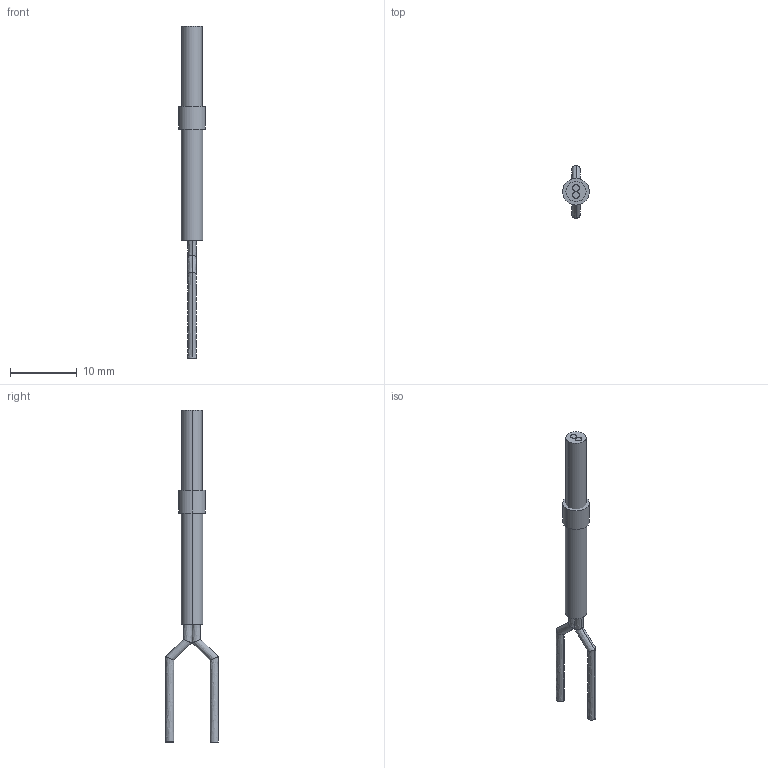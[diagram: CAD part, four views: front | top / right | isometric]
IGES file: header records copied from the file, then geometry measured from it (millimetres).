
Start section: SolidWorks IGES FILE using analytic representation for surfaces
Global section: file name: C:\Documents and Settings\yk0651\デスクトップ\3D_catalog_050904\0_IGES\FD-P50.IGS; native system: SolidWorks 2004 by SolidWorks Corporation; preprocessor: Version 5.3; author: yk0651; date: 050904.191232; units: millimetre
Bounding box: 4 x 7.91 x 49.6 mm (x, y, z)
Volume: 328.2 mm3; surface area: 538.3 mm2
Topology: 2 solids, 2 shells, 31 faces, 58 edges, 36 vertices
Faces by surface type: revolution 22, plane 9
